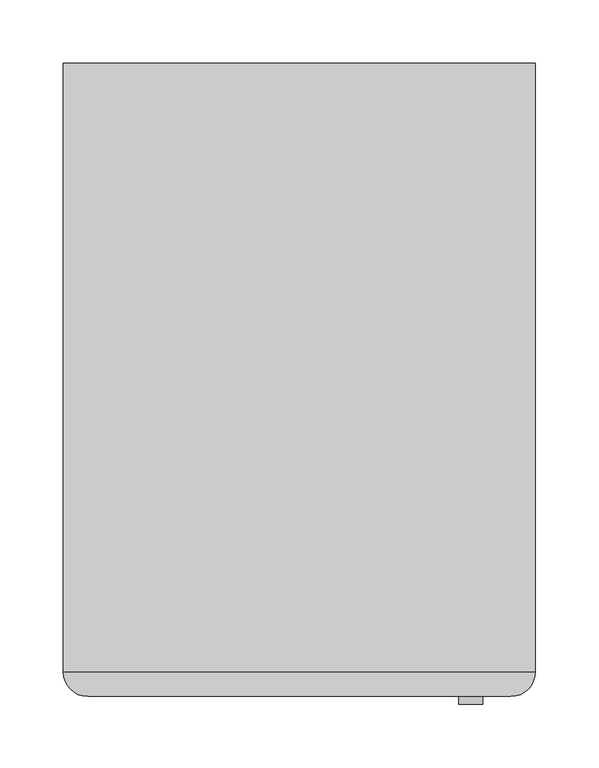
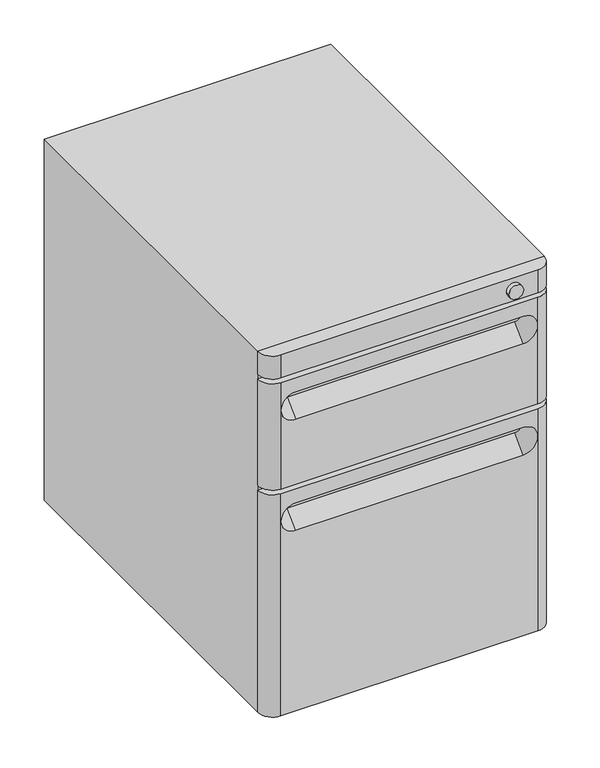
"""IFC4 building model written with IfcOpenShell, lengths in millimetres: furniture geometry."""

from ifc_helpers import new_model, si_unit, point, frame, frame_2d, origin, place, context, project, spatial, polyline, circle_curve, trimmed, segment, composite_curve, outline, extrude, source, transform, mapped, element, save
from ifc_brep_helpers import plane_surface, cylinder_surface, spline_surface, advanced_brep


def furniture_1b200335(model_context):
    return source(origin(), model_context, "Body", "SolidModel", [
        advanced_brep(
        [(-166.6875, -258.762503, 514.35), (166.6875, -258.762503, 514.35), (185.7375, -239.712503, 514.35), (-185.7375, -239.712503, 514.35), (-166.6875, -258.762503, 209.55), (-185.7375, -239.712503, 209.55), (185.7375, -239.712503, 209.55), (166.6875, -258.762503, 209.55), (-166.6875, -258.762503, 476.25), (-147.6375, -258.762503, 495.3), (147.6375, -258.762503, 495.3), (166.6875, -258.762503, 476.25), (147.6375, -258.762503, 457.2), (-147.6375, -258.762503, 457.2), (147.6375, -239.712503, 495.3), (-147.6375, -239.712503, 495.3), (-147.6375, -239.712503, 476.25), (147.6375, -239.712503, 476.25)],
        [
            (0, 1),
            (1, 2, circle_curve(frame((166.6875, -239.712503, 514.35), z_axis=(0.0, 0.0, 1.0), x_axis=(0.0, -1.0, 0.0)), 19.05)),
            (2, 3),
            (3, 0, circle_curve(frame((-166.6875, -239.712503, 514.35), z_axis=(0.0, 0.0, 1.0), x_axis=(0.0, -1.0, 0.0)), 19.05)),
            (4, 5, circle_curve(frame((-166.6875, -239.712503, 209.55), z_axis=(0.0, 0.0, -1.0), x_axis=(0.0, -1.0, 0.0)), 19.05)),
            (5, 6),
            (6, 7, circle_curve(frame((166.6875, -239.712503, 209.55), z_axis=(0.0, 0.0, -1.0), x_axis=(0.0, -1.0, 0.0)), 19.05)),
            (7, 4),
            (0, 8),
            (8, 9, circle_curve(frame((-147.6375, -258.762503, 476.25), z_axis=(0.0, 1.0, 0.0), x_axis=(0.0, 0.0, 1.0)), 19.05)),
            (9, 10),
            (10, 11, circle_curve(frame((147.6375, -258.762503, 476.25), z_axis=(0.0, 1.0, 0.0), x_axis=(0.0, 0.0, 1.0)), 19.05)),
            (11, 1),
            (7, 11),
            (11, 12, circle_curve(frame((147.6375, -258.762503, 476.25), z_axis=(0.0, 1.0, 0.0), x_axis=(0.0, 0.0, 1.0)), 19.05)),
            (12, 13),
            (13, 8, circle_curve(frame((-147.6375, -258.762503, 476.25), z_axis=(0.0, 1.0, 0.0), x_axis=(0.0, 0.0, 1.0)), 19.05)),
            (8, 4),
            (6, 2),
            (5, 3),
            (14, 15),
            (15, 16, circle_curve(frame((-147.6375, -239.712503, 485.775), z_axis=(0.0, -1.0, 0.0), x_axis=(0.0, 0.0, 1.0)), 9.525)),
            (16, 17),
            (17, 14, circle_curve(frame((147.6375, -239.712503, 485.775), z_axis=(0.0, -1.0, 0.0), x_axis=(0.0, 0.0, 1.0)), 9.525)),
            (9, 15),
            (14, 10),
            (17, 12),
            (16, 13),
        ],
        [
            plane_surface(frame((166.6875, -258.762503, 514.35), z_axis=(0.0, 0.0, 1.0), x_axis=(1.0, 0.0, 0.0))),
            plane_surface(frame((166.6875, -258.762503, 209.55), z_axis=(0.0, 0.0, -1.0), x_axis=(-1.0, 0.0, 0.0))),
            plane_surface(frame((-166.6875, -258.762503, 514.35), z_axis=(0.0, -1.0, 0.0), x_axis=(0.0, 0.0, -1.0))),
            cylinder_surface(frame((166.6875, -239.712503, 209.55), z_axis=(0.0, 0.0, 1.0), x_axis=(0.0, -1.0, 0.0)), 19.05),
            plane_surface(frame((185.7375, -239.712503, 514.35), z_axis=(0.0, 1.0, 0.0), x_axis=(0.0, 0.0, -1.0))),
            cylinder_surface(frame((-166.6875, -239.712503, 209.55), z_axis=(0.0, 0.0, 1.0), x_axis=(0.0, -1.0, 0.0)), 19.05),
            plane_surface(frame((0.0, -258.762503, 495.3), z_axis=(0.0, 0.0, -1.0), x_axis=(1.0, 0.0, 0.0))),
            spline_surface(1, 2, [[(147.6375, -258.762503, 495.3), (166.6875, -258.762503, 495.3), (166.6875, -258.762503, 476.25), (166.6875, -258.762503, 457.2), (147.6375, -258.762503, 457.2)], [(147.6375, -239.712503, 495.3), (157.16250000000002, -239.712503, 495.3), (157.16250000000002, -239.712503, 485.775), (157.16250000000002, -239.712503, 476.24999999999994), (147.6375, -239.712503, 476.25)]], [2, 2], [3, 2, 3], [0.0, 1.0], [0.0, 1.0, 2.0], weights=[[1.0, 0.7071067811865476, 1.0, 0.7071067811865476, 1.0], [1.0, 0.7071067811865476, 1.0, 0.7071067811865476, 1.0]]),
            plane_surface(frame((0.0, -258.762503, 457.2), z_axis=(0.0, -0.7071067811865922, 0.7071067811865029), x_axis=(-1.0, 0.0, 0.0))),
            spline_surface(1, 2, [[(-147.6375, -258.762503, 457.2), (-166.6875, -258.762503, 457.2), (-166.6875, -258.762503, 476.25), (-166.6875, -258.762503, 495.3), (-147.6375, -258.762503, 495.3)], [(-147.6375, -239.712503, 476.25), (-157.16249999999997, -239.712503, 476.25), (-157.16249999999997, -239.712503, 485.775), (-157.16249999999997, -239.712503, 495.29999999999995), (-147.6375, -239.712503, 495.3)]], [2, 2], [3, 2, 3], [0.0, 1.0], [0.0, 1.0, 2.0], weights=[[1.0, 0.7071067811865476, 1.0, 0.7071067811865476, 1.0], [1.0, 0.7071067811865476, 1.0, 0.7071067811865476, 1.0]]),
        ],
        [
            (0, [[1, 2, 3, 4]]),
            (1, [[5, 6, 7, 8]]),
            (2, [[-1, 9, 10, 11, 12, 13]]),
            (2, [[-8, 14, 15, 16, 17, 18]]),
            (3, [[-2, -13, -14, -7, 19]]),
            (4, [[-3, -19, -6, 20], [21, 22, 23, 24]]),
            (5, [[-4, -20, -5, -18, -9]]),
            (6, [[25, -21, 26, -11]]),
            (7, [[-26, -24, 27, -15, -12]]),
            (8, [[-27, -23, 28, -16]]),
            (9, [[-25, -10, -17, -28, -22]]),
        ],
    ),
        advanced_brep(
        [(166.6875, -258.762503, 666.75), (185.7375, -239.712503, 666.75), (-185.7375, -239.712503, 666.75), (-166.6875, -258.762503, 666.75), (166.6875, -258.762503, 520.7000121), (-166.6875, -258.762503, 520.7000121), (-185.7375, -239.712503, 520.7000121), (185.7375, -239.712503, 520.7000121), (166.6875, -258.762503, 628.65), (-147.6375, -239.712503, 647.7), (-147.6375, -239.712503, 628.65), (147.6375, -239.712503, 628.65), (147.6375, -239.712503, 647.7), (-166.6875, -258.762503, 628.65), (-147.6375, -258.762503, 647.7), (147.6375, -258.762503, 647.7), (147.6375, -258.762503, 609.6), (-147.6375, -258.762503, 609.6)],
        [
            (0, 1, circle_curve(frame((166.6875, -239.712503, 666.75), z_axis=(0.0, 0.0, 1.0), x_axis=(0.0, -1.0, 0.0)), 19.05)),
            (1, 2),
            (2, 3, circle_curve(frame((-166.6875, -239.712503, 666.75), z_axis=(0.0, 0.0, 1.0), x_axis=(0.0, -1.0, 0.0)), 19.05)),
            (3, 0),
            (4, 5),
            (5, 6, circle_curve(frame((-166.6875, -239.712503, 520.7000121), z_axis=(0.0, 0.0, -1.0), x_axis=(0.0, -1.0, 0.0)), 19.05)),
            (6, 7),
            (7, 4, circle_curve(frame((166.6875, -239.712503, 520.7000121), z_axis=(0.0, 0.0, -1.0), x_axis=(0.0, -1.0, 0.0)), 19.05)),
            (0, 8),
            (8, 4),
            (7, 1),
            (6, 2),
            (9, 10, circle_curve(frame((-147.6375, -239.712503, 638.175), z_axis=(0.0, -1.0, 0.0), x_axis=(0.0, 0.0, 1.0)), 9.525)),
            (10, 11),
            (11, 12, circle_curve(frame((147.6375, -239.712503, 638.175), z_axis=(0.0, -1.0, 0.0), x_axis=(0.0, 0.0, 1.0)), 9.525)),
            (12, 9),
            (5, 13),
            (13, 3),
            (13, 14, circle_curve(frame((-147.6375, -258.762503, 628.65), z_axis=(0.0, 1.0, 0.0), x_axis=(0.0, 0.0, 1.0)), 19.05)),
            (14, 15),
            (15, 8, circle_curve(frame((147.6375, -258.762503, 628.65), z_axis=(0.0, 1.0, 0.0), x_axis=(0.0, 0.0, 1.0)), 19.05)),
            (8, 16, circle_curve(frame((147.6375, -258.762503, 628.65), z_axis=(0.0, 1.0, 0.0), x_axis=(0.0, 0.0, 1.0)), 19.05)),
            (16, 17),
            (17, 13, circle_curve(frame((-147.6375, -258.762503, 628.65), z_axis=(0.0, 1.0, 0.0), x_axis=(0.0, 0.0, 1.0)), 19.05)),
            (17, 10),
            (9, 14),
            (12, 15),
            (11, 16),
        ],
        [
            plane_surface(frame((166.6875, -258.762503, 666.75), z_axis=(0.0, 0.0, 1.0), x_axis=(1.0, 0.0, 0.0))),
            plane_surface(frame((166.6875, -258.762503, 520.7000121), z_axis=(0.0, 0.0, -1.0), x_axis=(-1.0, 0.0, 0.0))),
            cylinder_surface(frame((166.6875, -239.712503, 520.7000121), z_axis=(0.0, 0.0, 1.0), x_axis=(0.0, -1.0, 0.0)), 19.05),
            plane_surface(frame((185.7375, -239.712503, 666.75), z_axis=(0.0, 1.0, 0.0), x_axis=(0.0, 0.0, -1.0))),
            cylinder_surface(frame((-166.6875, -239.712503, 520.7000121), z_axis=(0.0, 0.0, 1.0), x_axis=(0.0, -1.0, 0.0)), 19.05),
            plane_surface(frame((-166.6875, -258.762503, 666.75), z_axis=(0.0, -1.0, 0.0), x_axis=(0.0, 0.0, -1.0))),
            spline_surface(1, 2, [[(-147.6375, -258.762503, 609.6), (-166.68749999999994, -258.762503, 609.6), (-166.68749999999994, -258.762503, 628.65), (-166.68749999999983, -258.762503, 647.6999999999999), (-147.6375, -258.762503, 647.7)], [(-147.6375, -239.712503, 628.65), (-157.16249999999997, -239.712503, 628.65), (-157.16249999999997, -239.712503, 638.175), (-157.1624999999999, -239.712503, 647.6999999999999), (-147.6375, -239.712503, 647.7)]], [2, 2], [3, 2, 3], [0.0, 1.0], [0.0, 1.0, 2.0], weights=[[1.0, 0.7071067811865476, 1.0, 0.7071067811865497, 1.0], [1.0, 0.7071067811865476, 1.0, 0.7071067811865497, 1.0]]),
            plane_surface(frame((0.0, -258.762503, 647.7), z_axis=(0.0, 0.0, -1.0), x_axis=(1.0, 0.0, 0.0))),
            spline_surface(1, 2, [[(147.6375, -258.762503, 647.7), (166.68750000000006, -258.762503, 647.7), (166.68750000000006, -258.762503, 628.65), (166.68750000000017, -258.762503, 609.5999999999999), (147.6375, -258.762503, 609.6)], [(147.6375, -239.712503, 647.7), (157.16250000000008, -239.712503, 647.7), (157.16250000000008, -239.712503, 638.175), (157.16250000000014, -239.712503, 628.6499999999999), (147.6375, -239.712503, 628.65)]], [2, 2], [3, 2, 3], [0.0, 1.0], [0.0, 1.0, 2.0], weights=[[1.0, 0.7071067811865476, 1.0, 0.7071067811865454, 1.0], [1.0, 0.7071067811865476, 1.0, 0.7071067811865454, 1.0]]),
            plane_surface(frame((0.0, -258.762503, 609.6), z_axis=(0.0, -0.7071067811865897, 0.7071067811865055), x_axis=(-1.0, 0.0, 0.0))),
        ],
        [
            (0, [[1, 2, 3, 4]]),
            (1, [[5, 6, 7, 8]]),
            (2, [[-1, 9, 10, -8, 11]]),
            (3, [[-2, -11, -7, 12], [13, 14, 15, 16]]),
            (4, [[-3, -12, -6, 17, 18]]),
            (5, [[-4, -18, 19, 20, 21, -9]]),
            (5, [[-5, -10, 22, 23, 24, -17]]),
            (6, [[25, -13, 26, -19, -24]]),
            (7, [[-26, -16, 27, -20]]),
            (8, [[-27, -15, 28, -22, -21]]),
            (9, [[-25, -23, -28, -14]]),
        ],
    ),
        extrude(outline(composite_curve([segment(trimmed(circle_curve(frame_2d((166.6875, -239.712503)), 19.0499939), [point((185.7374939, -239.712503))], [point((166.6875, -258.762497))], False, "CARTESIAN"), True, "CONTINUOUS"), segment(polyline([(166.6875, -258.762497), (-166.6875, -258.762497)]), True, "CONTINUOUS"), segment(trimmed(circle_curve(frame_2d((-166.6875, -239.712503)), 19.0499939), [point((-166.6875, -258.762497))], [point((-185.7374939, -239.712503))], False, "CARTESIAN"), True, "CONTINUOUS"), segment(polyline([(-185.7374939, -239.712503), (185.7374939, -239.712503)]), True, "CONTINUOUS")], self_intersect=False)), frame((0.0, 0.0, 673.1), z_axis=(0.0, 0.0, 1.0), x_axis=(1.0, 0.0, 0.0)), (0.0, 0.0, 1.0), 31.75),
        extrude(outline(polyline([(185.7375, 239.712503), (185.7375, -239.712503), (-185.7375, -239.712503), (-185.7375, 239.712503), (185.7375, 239.712503)])), frame((0.0, 0.0, 209.55), z_axis=(0.0, 0.0, 1.0), x_axis=(1.0, 0.0, 0.0)), (0.0, 0.0, 1.0), 495.3),
        extrude(outline(composite_curve([segment(trimmed(circle_curve(frame_2d((688.975, 134.9375121)), 9.525), [point((688.975, 144.4625121))], [point((688.975, 125.4125121))], False, "CARTESIAN"), True, "CONTINUOUS"), segment(trimmed(circle_curve(frame_2d((688.975, 134.9375121)), 9.525), [point((688.975, 125.4125121))], [point((688.975, 144.4625121))], False, "CARTESIAN"), True, "CONTINUOUS")], self_intersect=False)), frame((0.0, -265.1124972, 0.0), z_axis=(0.0, 1.0, 0.0), x_axis=(0.0, 0.0, 1.0)), (0.0, 0.0, 1.0), 6.3500002),
    ])


if __name__ == "__main__":
    model = new_model("IFC4")
    model_context = context("Model", 3, world=origin())
    ifc_project = project(units=[si_unit("LENGTHUNIT", "METRE", prefix="MILLI")], contexts=[model_context])
    site = spatial("IfcSite", under=ifc_project)
    building = spatial("IfcBuilding", under=site)
    placement = place(None, origin())
    furniture_shape = furniture_1b200335(model_context)
    element("IfcFurniture", 1, ObjectType="HermanMiller_Quadrant_G5112_B-PullSuspendedPedestal : 20\"H x 20\"D x 15\"W BF", at=placement, inside=building, context=model_context, shape_type="MappedRepresentation", body=[
        mapped(furniture_shape, transform((0.0, 0.0, 0.0), x_axis=(1.0, 0.0, 0.0), y_axis=(0.0, 1.0, 0.0), z_axis=(0.0, 0.0, 1.0))),
    ])
    save(model, "model.ifc")
